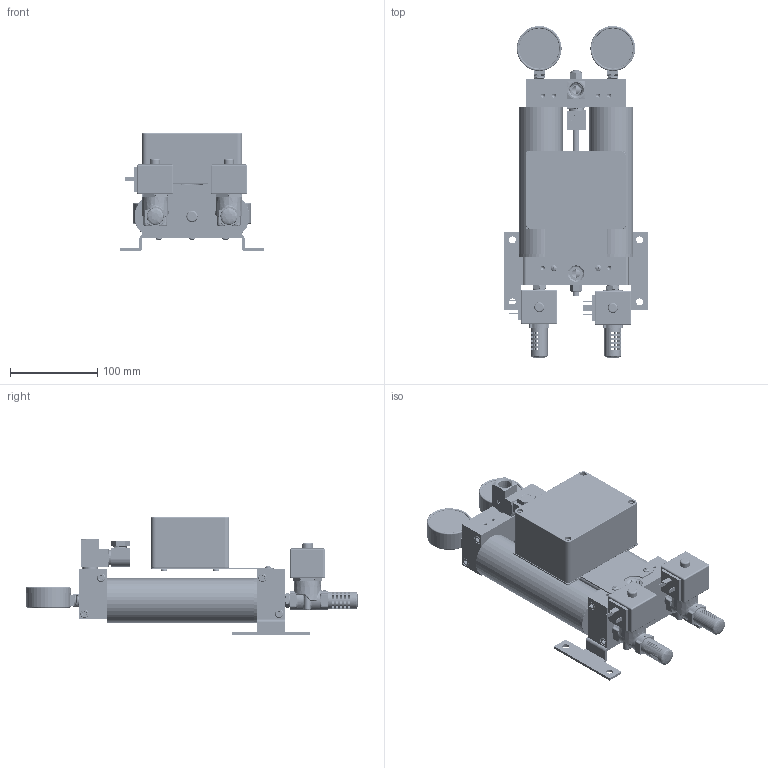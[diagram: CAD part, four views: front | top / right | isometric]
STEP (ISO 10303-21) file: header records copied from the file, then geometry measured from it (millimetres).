
FILE_DESCRIPTION (( 'STEP AP214' ), '1' );
FILE_NAME ('HR1-XX-XXXX.STEP', '2020-09-15T22:04:44', ( '' ), ( '' ), 'SwSTEP 2.0', 'SolidWorks 2017', '' );
FILE_SCHEMA (( 'AUTOMOTIVE_DESIGN' ));
Length unit declared in the file: inch
Products named in the file (1): HR1-XX-XXXX
Bounding box: 165.1 x 381.38 x 134.89 mm (x, y, z)
Volume: 992204.5 mm3; surface area: 492385.8 mm2
Topology: 56 solids, 62 shells, 5675 faces, 15175 edges, 9729 vertices
Faces by surface type: plane 2609, cylinder 1735, cone 737, bspline 332, torus 234, sphere 28
Entity records: 319549 total; most frequent: CARTESIAN_POINT 109262, ORIENTED_EDGE 30086, DIRECTION 26136, EDGE_CURVE 15043, VERTEX_POINT 9729, AXIS2_PLACEMENT_3D 9111, VECTOR 7914, LINE 7914
